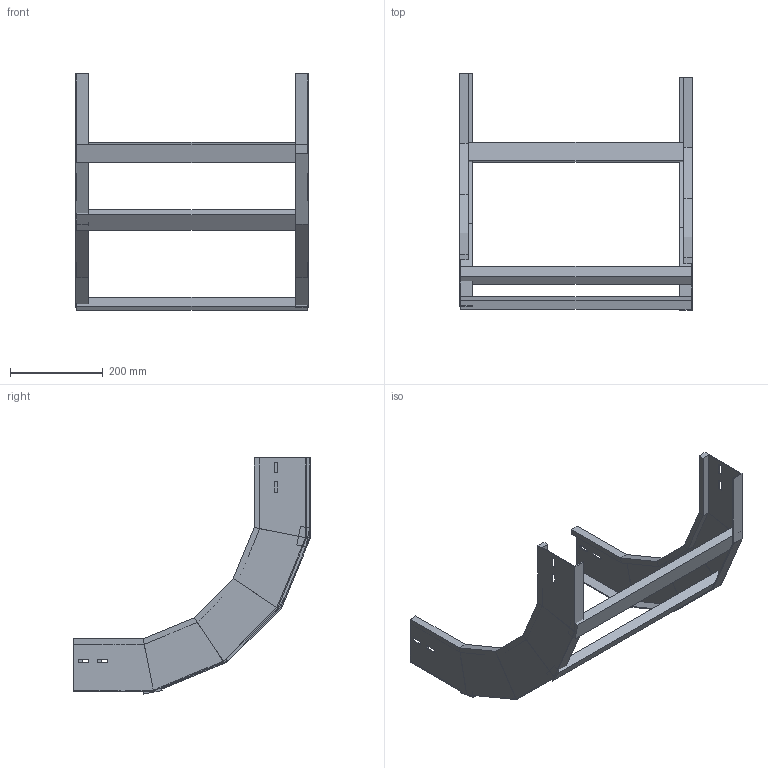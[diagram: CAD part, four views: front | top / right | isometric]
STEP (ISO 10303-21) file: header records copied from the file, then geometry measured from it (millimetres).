
FILE_DESCRIPTION (( 'STEP AP214' ), '1' );
FILE_NAME ('A2X30B3J500XX.step', '2025-04-02T09:15:00', ( '' ), ( '' ), 'SwSTEP 2.0', 'SolidWorks 2023', '' );
FILE_SCHEMA (( 'AUTOMOTIVE_DESIGN' ));
Length unit declared in the file: millimetre
Products named in the file (3): TRAVERSINO_500; A2X30B3J500XX; LONGH.SALITA_90°_H112.5_R300
Assembly tree (5 placements, depth 2):
  A2X30B3J500XX
    LONGH.SALITA_90°_H112.5_R300  x2
    TRAVERSINO_500  x3
Bounding box: 500 x 509.89 x 507.89 mm (x, y, z)
Volume: 1876909.2 mm3; surface area: 652422.1 mm2
Topology: 5 solids, 5 shells, 134 faces, 308 edges, 184 vertices
Faces by surface type: plane 134
Entity records: 1864 total; most frequent: CARTESIAN_POINT 308, ORIENTED_EDGE 296, DIRECTION 292, VECTOR 148, LINE 148, EDGE_CURVE 148, VERTEX_POINT 88, AXIS2_PLACEMENT_3D 72
